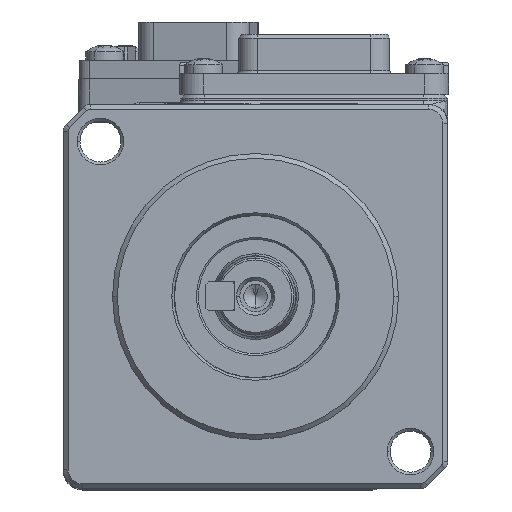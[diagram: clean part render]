
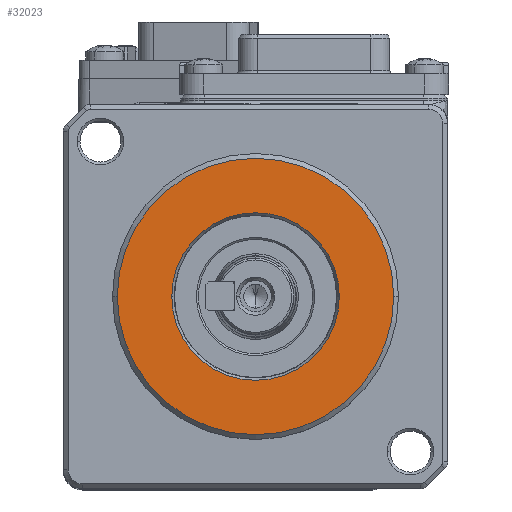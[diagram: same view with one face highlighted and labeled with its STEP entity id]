
A CAD part, top view. The second image highlights one B-rep face of the part: STEP entity #32023.
In plain terms, the highlighted planar face has unit normal (0, 0, 1).
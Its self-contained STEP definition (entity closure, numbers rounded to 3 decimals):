
#257 = CARTESIAN_POINT ( 'NONE',  ( 8.789, 0., -3. ) ) ;
#2816 = ORIENTED_EDGE ( 'NONE', *, *, #115799, .F. ) ;
#2905 = DIRECTION ( 'NONE',  ( 0., 0., -1. ) ) ;
#6568 = EDGE_LOOP ( 'NONE', ( #110643, #73290 ) ) ;
#7862 = FACE_OUTER_BOUND ( 'NONE', #11323, .T. ) ;
#10346 = AXIS2_PLACEMENT_3D ( 'NONE', #55237, #36517, #92032 ) ;
#11323 = EDGE_LOOP ( 'NONE', ( #82283, #2816 ) ) ;
#14162 = AXIS2_PLACEMENT_3D ( 'NONE', #65462, #2905, #55005 ) ;
#17233 = FACE_BOUND ( 'NONE', #6568, .T. ) ;
#19914 = DIRECTION ( 'NONE',  ( -1., 0., 0. ) ) ;
#26932 = CARTESIAN_POINT ( 'NONE',  ( -14.5, 0., -3. ) ) ;
#28897 = CARTESIAN_POINT ( 'NONE',  ( 14.5, 0., -3. ) ) ;
#32023 = ADVANCED_FACE ( 'NONE', ( #7862, #17233 ), #61116, .F. ) ;
#33526 = CIRCLE ( 'NONE', #67151, 14.5 ) ;
#34254 = VERTEX_POINT ( 'NONE', #28897 ) ;
#36517 = DIRECTION ( 'NONE',  ( 0., 0., -1. ) ) ;
#36949 = EDGE_CURVE ( 'NONE', #86848, #58140, #44613, .T. ) ;
#44613 = CIRCLE ( 'NONE', #104444, 8.789 ) ;
#46656 = DIRECTION ( 'NONE',  ( 0., 0., -1. ) ) ;
#52748 = CARTESIAN_POINT ( 'NONE',  ( 0., 0., -3. ) ) ;
#54380 = VERTEX_POINT ( 'NONE', #26932 ) ;
#55005 = DIRECTION ( 'NONE',  ( -1., 0., 0. ) ) ;
#55237 = CARTESIAN_POINT ( 'NONE',  ( 0., 14.5, -3. ) ) ;
#56601 = CARTESIAN_POINT ( 'NONE',  ( -8.789, 0., -3. ) ) ;
#58140 = VERTEX_POINT ( 'NONE', #257 ) ;
#61116 = PLANE ( 'NONE',  #10346 ) ;
#62655 = DIRECTION ( 'NONE',  ( -1., 0., 0. ) ) ;
#64579 = CIRCLE ( 'NONE', #14162, 14.5 ) ;
#65462 = CARTESIAN_POINT ( 'NONE',  ( 0., 0., -3. ) ) ;
#67151 = AXIS2_PLACEMENT_3D ( 'NONE', #52748, #114236, #62655 ) ;
#72529 = DIRECTION ( 'NONE',  ( 0., 0., -1. ) ) ;
#73290 = ORIENTED_EDGE ( 'NONE', *, *, #36949, .T. ) ;
#76378 = EDGE_CURVE ( 'NONE', #58140, #86848, #81133, .T. ) ;
#81133 = CIRCLE ( 'NONE', #83045, 8.789 ) ;
#82283 = ORIENTED_EDGE ( 'NONE', *, *, #88596, .F. ) ;
#82293 = DIRECTION ( 'NONE',  ( -1., 0., 0. ) ) ;
#83045 = AXIS2_PLACEMENT_3D ( 'NONE', #100615, #72529, #19914 ) ;
#86848 = VERTEX_POINT ( 'NONE', #56601 ) ;
#88596 = EDGE_CURVE ( 'NONE', #54380, #34254, #64579, .T. ) ;
#92032 = DIRECTION ( 'NONE',  ( -1., 0., 0. ) ) ;
#99873 = CARTESIAN_POINT ( 'NONE',  ( 0., 0., -3. ) ) ;
#100615 = CARTESIAN_POINT ( 'NONE',  ( 0., 0., -3. ) ) ;
#104444 = AXIS2_PLACEMENT_3D ( 'NONE', #99873, #46656, #82293 ) ;
#110643 = ORIENTED_EDGE ( 'NONE', *, *, #76378, .T. ) ;
#114236 = DIRECTION ( 'NONE',  ( 0., 0., -1. ) ) ;
#115799 = EDGE_CURVE ( 'NONE', #34254, #54380, #33526, .T. ) ;
